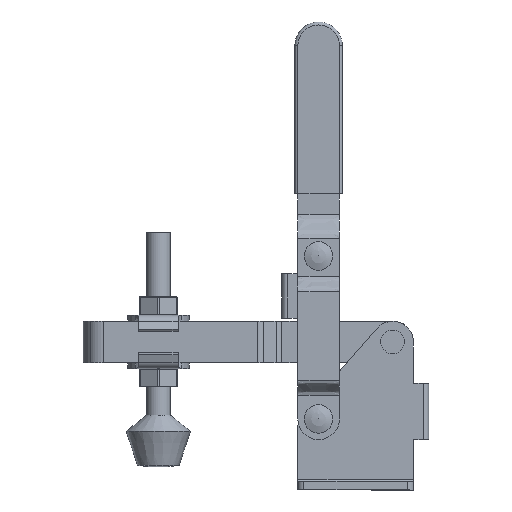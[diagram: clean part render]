
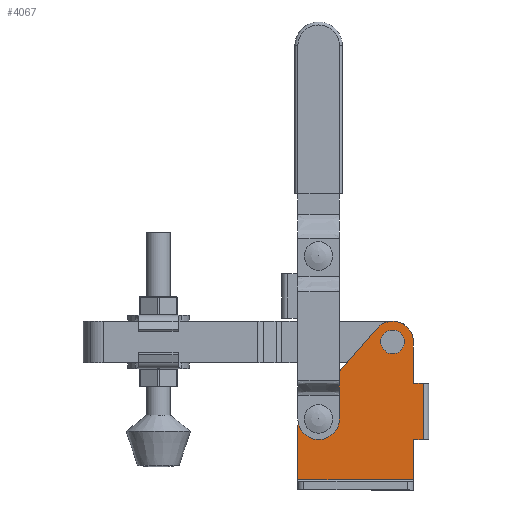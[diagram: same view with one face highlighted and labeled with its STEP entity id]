
A CAD part, front view. The second image highlights one B-rep face of the part: STEP entity #4067.
In plain terms, the highlighted planar face has unit normal (0, -1, 0).
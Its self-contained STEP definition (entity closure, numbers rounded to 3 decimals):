
#167=PLANE('',#4353);
#274=LINE('',#6143,#592);
#284=LINE('',#6168,#602);
#290=LINE('',#6187,#608);
#298=LINE('',#6209,#616);
#299=LINE('',#6214,#617);
#300=LINE('',#6218,#618);
#301=LINE('',#6220,#619);
#302=LINE('',#6221,#620);
#592=VECTOR('',#4856,2.8);
#602=VECTOR('',#4874,2.8);
#608=VECTOR('',#4892,13.5);
#616=VECTOR('',#4914,19.);
#617=VECTOR('',#4919,38.006);
#618=VECTOR('',#4922,17.874);
#619=VECTOR('',#4923,39.);
#620=VECTOR('',#4924,13.);
#905=FACE_BOUND('',#1259,.T.);
#906=FACE_BOUND('',#1260,.T.);
#1001=FACE_OUTER_BOUND('',#1258,.T.);
#1258=EDGE_LOOP('',(#2864,#2865,#2866,#2867,#2868,#2869,#2870,#2871,#2872,
#2873,#2874,#2875));
#1259=EDGE_LOOP('',(#2876));
#1260=EDGE_LOOP('',(#2877));
#1588=CIRCLE('',#4332,0.5);
#1596=CIRCLE('',#4344,0.5);
#1601=CIRCLE('',#4354,7.);
#1602=CIRCLE('',#4355,7.);
#1603=CIRCLE('',#4356,2.5);
#1604=CIRCLE('',#4357,2.5);
#1826=VERTEX_POINT('',#6129);
#1827=VERTEX_POINT('',#6131);
#1831=VERTEX_POINT('',#6141);
#1841=VERTEX_POINT('',#6165);
#1842=VERTEX_POINT('',#6167);
#1847=VERTEX_POINT('',#6179);
#1849=VERTEX_POINT('',#6185);
#1857=VERTEX_POINT('',#6211);
#1858=VERTEX_POINT('',#6213);
#1859=VERTEX_POINT('',#6215);
#1860=VERTEX_POINT('',#6217);
#1861=VERTEX_POINT('',#6219);
#1862=VERTEX_POINT('',#6222);
#1863=VERTEX_POINT('',#6224);
#2225=EDGE_CURVE('',#1826,#1827,#1588,.T.);
#2231=EDGE_CURVE('',#1831,#1826,#274,.T.);
#2243=EDGE_CURVE('',#1842,#1841,#284,.T.);
#2250=EDGE_CURVE('',#1847,#1841,#1596,.T.);
#2253=EDGE_CURVE('',#1847,#1849,#290,.T.);
#2265=EDGE_CURVE('',#1842,#1831,#298,.T.);
#2266=EDGE_CURVE('',#1849,#1857,#1601,.T.);
#2267=EDGE_CURVE('',#1857,#1858,#299,.T.);
#2268=EDGE_CURVE('',#1858,#1859,#1602,.T.);
#2269=EDGE_CURVE('',#1860,#1859,#300,.T.);
#2270=EDGE_CURVE('',#1861,#1860,#301,.T.);
#2271=EDGE_CURVE('',#1861,#1827,#302,.T.);
#2272=EDGE_CURVE('',#1862,#1862,#1603,.T.);
#2273=EDGE_CURVE('',#1863,#1863,#1604,.T.);
#2864=ORIENTED_EDGE('',*,*,#2265,.F.);
#2865=ORIENTED_EDGE('',*,*,#2243,.T.);
#2866=ORIENTED_EDGE('',*,*,#2250,.F.);
#2867=ORIENTED_EDGE('',*,*,#2253,.T.);
#2868=ORIENTED_EDGE('',*,*,#2266,.T.);
#2869=ORIENTED_EDGE('',*,*,#2267,.T.);
#2870=ORIENTED_EDGE('',*,*,#2268,.T.);
#2871=ORIENTED_EDGE('',*,*,#2269,.F.);
#2872=ORIENTED_EDGE('',*,*,#2270,.F.);
#2873=ORIENTED_EDGE('',*,*,#2271,.T.);
#2874=ORIENTED_EDGE('',*,*,#2225,.F.);
#2875=ORIENTED_EDGE('',*,*,#2231,.F.);
#2876=ORIENTED_EDGE('',*,*,#2272,.T.);
#2877=ORIENTED_EDGE('',*,*,#2273,.T.);
#4067=ADVANCED_FACE('',(#1001,#905,#906),#167,.T.);
#4332=AXIS2_PLACEMENT_3D('',#6132,#4845,#4846);
#4344=AXIS2_PLACEMENT_3D('',#6181,#4886,#4887);
#4353=AXIS2_PLACEMENT_3D('',#6210,#4915,#4916);
#4354=AXIS2_PLACEMENT_3D('',#6212,#4917,#4918);
#4355=AXIS2_PLACEMENT_3D('',#6216,#4920,#4921);
#4356=AXIS2_PLACEMENT_3D('',#6223,#4925,#4926);
#4357=AXIS2_PLACEMENT_3D('',#6225,#4927,#4928);
#4845=DIRECTION('center_axis',(0.,-1.,0.));
#4846=DIRECTION('ref_axis',(-0.707,0.,0.707));
#4856=DIRECTION('',(-1.,0.,0.));
#4874=DIRECTION('',(-1.,0.,0.));
#4886=DIRECTION('center_axis',(0.,-1.,0.));
#4887=DIRECTION('ref_axis',(-0.707,0.,-0.707));
#4892=DIRECTION('',(0.,0.,1.));
#4914=DIRECTION('',(0.,0.,-1.));
#4915=DIRECTION('center_axis',(0.,-1.,0.));
#4916=DIRECTION('ref_axis',(1.,0.,0.));
#4917=DIRECTION('center_axis',(0.,-1.,0.));
#4918=DIRECTION('ref_axis',(1.,0.,0.));
#4919=DIRECTION('',(-0.658,0.,-0.753));
#4920=DIRECTION('center_axis',(0.,-1.,0.));
#4921=DIRECTION('ref_axis',(-0.753,0.,0.658));
#4922=DIRECTION('',(0.,0.,1.));
#4923=DIRECTION('',(-1.,0.,0.));
#4924=DIRECTION('',(0.,0.,1.));
#4925=DIRECTION('center_axis',(0.,1.,0.));
#4926=DIRECTION('ref_axis',(-1.,0.,0.));
#4927=DIRECTION('center_axis',(0.,1.,0.));
#4928=DIRECTION('ref_axis',(-1.,0.,0.));
#6129=CARTESIAN_POINT('',(20.,-6.25,17.));
#6131=CARTESIAN_POINT('',(19.5,-6.25,16.5));
#6132=CARTESIAN_POINT('Origin',(20.,-6.25,16.5));
#6141=CARTESIAN_POINT('',(22.8,-6.25,17.));
#6143=CARTESIAN_POINT('',(24.7,-6.25,17.));
#6165=CARTESIAN_POINT('',(20.,-6.25,36.));
#6167=CARTESIAN_POINT('',(22.8,-6.25,36.));
#6168=CARTESIAN_POINT('',(24.7,-6.25,36.));
#6179=CARTESIAN_POINT('',(19.5,-6.25,36.5));
#6181=CARTESIAN_POINT('Origin',(20.,-6.25,36.5));
#6185=CARTESIAN_POINT('',(19.5,-6.25,50.));
#6187=CARTESIAN_POINT('',(19.5,-6.25,0.));
#6209=CARTESIAN_POINT('',(22.8,-6.25,13.25));
#6210=CARTESIAN_POINT('Origin',(-19.5,-6.25,0.));
#6211=CARTESIAN_POINT('',(7.228,-6.25,54.605));
#6212=CARTESIAN_POINT('Origin',(12.5,-6.25,50.));
#6213=CARTESIAN_POINT('',(-17.772,-6.25,25.978));
#6214=CARTESIAN_POINT('',(-24.582,-6.25,18.181));
#6215=CARTESIAN_POINT('',(-19.5,-6.25,21.374));
#6216=CARTESIAN_POINT('Origin',(-12.5,-6.25,21.374));
#6217=CARTESIAN_POINT('',(-19.5,-6.25,3.5));
#6218=CARTESIAN_POINT('',(-19.5,-6.25,0.));
#6219=CARTESIAN_POINT('',(19.5,-6.25,3.5));
#6220=CARTESIAN_POINT('',(-9.75,-6.25,3.5));
#6221=CARTESIAN_POINT('',(19.5,-6.25,0.));
#6222=CARTESIAN_POINT('',(-10.,-6.25,24.));
#6223=CARTESIAN_POINT('Origin',(-12.5,-6.25,24.));
#6224=CARTESIAN_POINT('',(15.,-6.25,50.));
#6225=CARTESIAN_POINT('Origin',(12.5,-6.25,50.));
